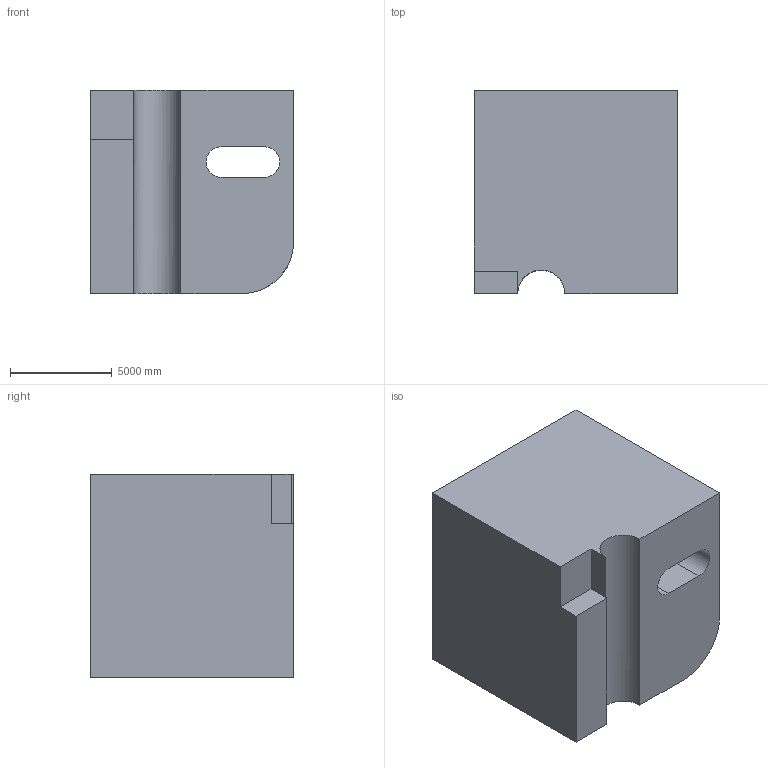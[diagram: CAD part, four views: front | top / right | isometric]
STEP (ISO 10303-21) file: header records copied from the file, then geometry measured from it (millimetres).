
FILE_DESCRIPTION (( 'STEP AP203' ), '1' );
FILE_NAME ('1518.STEP', '2022-08-18T14:59:35', ( 'user' ), ( '' ), 'SwSTEP 2.0', 'SolidWorks 2021', '' );
FILE_SCHEMA (( 'CONFIG_CONTROL_DESIGN' ));
Length unit declared in the file: centimetre
Products named in the file (1): 1518
Bounding box: 10000 x 10000 x 10000 mm (x, y, z)
Volume: 862601760816.6 mm3; surface area: 742196690.8 mm2
Topology: 1 solids, 1 shells, 27 faces, 69 edges, 46 vertices
Faces by surface type: plane 17, cylinder 10
Entity records: 906 total; most frequent: DIRECTION 147, CARTESIAN_POINT 143, ORIENTED_EDGE 138, EDGE_CURVE 69, AXIS2_PLACEMENT_3D 50, VECTOR 47, LINE 47, VERTEX_POINT 46
